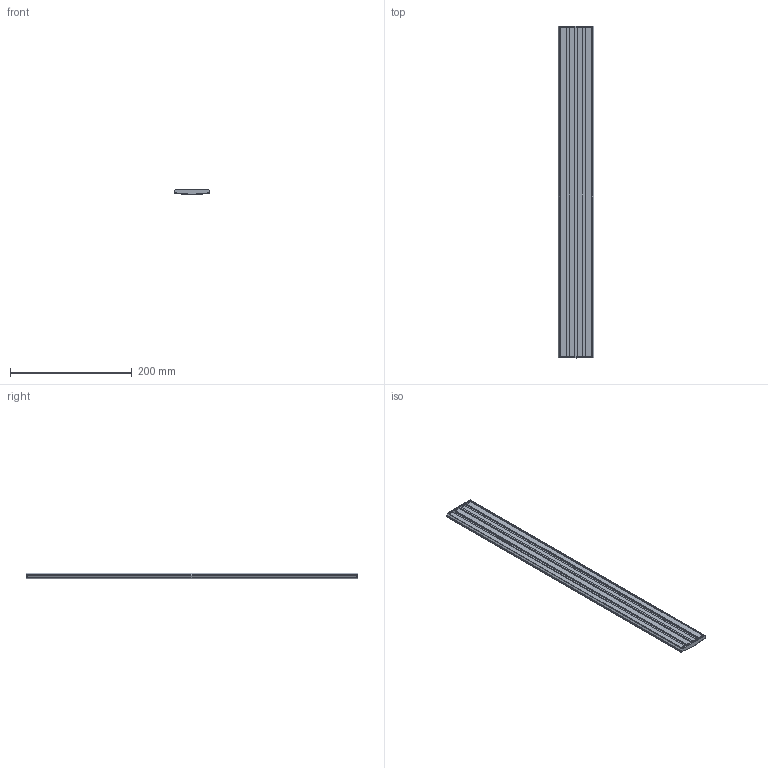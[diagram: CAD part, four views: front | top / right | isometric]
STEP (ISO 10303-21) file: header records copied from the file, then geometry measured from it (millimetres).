
FILE_DESCRIPTION (( 'STEP AP203' ), '1' );
FILE_NAME ('LIN_X45_L540.STEP', '2011-11-08T02:29:36', ( '' ), ( '' ), 'SwSTEP 2.0', 'SolidWorks 2011', '' );
FILE_SCHEMA (( 'CONFIG_CONTROL_DESIGN' ));
Length unit declared in the file: millimetre
Products named in the file (1): LIN_X45_L540
Bounding box: 59 x 546 x 9.6 mm (x, y, z)
Volume: 155022.3 mm3; surface area: 108922.9 mm2
Topology: 3 solids, 3 shells, 145 faces, 385 edges, 240 vertices
Faces by surface type: plane 71, cylinder 62, bspline 8, torus 4
Entity records: 4636 total; most frequent: CARTESIAN_POINT 1001, ORIENTED_EDGE 754, DIRECTION 743, EDGE_CURVE 377, VECTOR 251, LINE 251, AXIS2_PLACEMENT_3D 246, VERTEX_POINT 240
